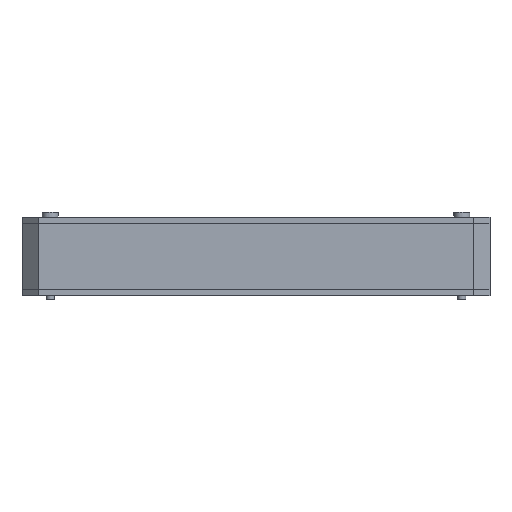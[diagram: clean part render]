
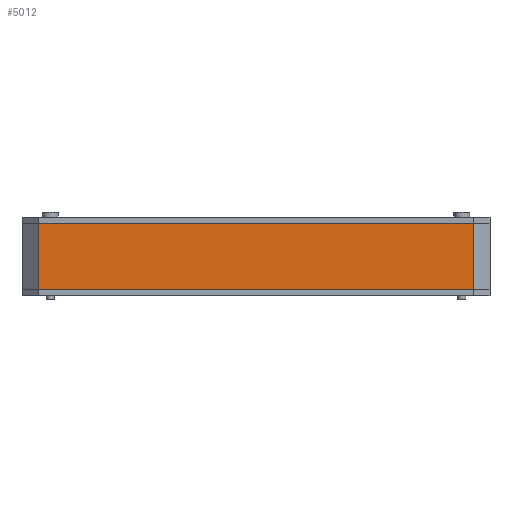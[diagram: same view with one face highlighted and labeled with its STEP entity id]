
A CAD part, front view. The second image highlights one B-rep face of the part: STEP entity #5012.
In plain terms, the highlighted planar face has unit normal (0, -1, 0).
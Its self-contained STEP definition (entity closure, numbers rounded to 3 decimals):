
#5012 = ADVANCED_FACE('',(#5013),#5027,.F.);
#5013 = FACE_BOUND('',#5014,.F.);
#5014 = EDGE_LOOP('',(#5015,#5050,#5078,#5106));
#5015 = ORIENTED_EDGE('',*,*,#5016,.T.);
#5016 = EDGE_CURVE('',#5017,#5019,#5021,.T.);
#5017 = VERTEX_POINT('',#5018);
#5018 = CARTESIAN_POINT('',(-54.,-43.,-10.1));
#5019 = VERTEX_POINT('',#5020);
#5020 = CARTESIAN_POINT('',(-54.,-43.,6.4));
#5021 = SURFACE_CURVE('',#5022,(#5026,#5038),.PCURVE_S1.);
#5022 = LINE('',#5023,#5024);
#5023 = CARTESIAN_POINT('',(-54.,-43.,-10.1));
#5024 = VECTOR('',#5025,1.);
#5025 = DIRECTION('',(0.,0.,1.));
#5026 = PCURVE('',#5027,#5032);
#5027 = PLANE('',#5028);
#5028 = AXIS2_PLACEMENT_3D('',#5029,#5030,#5031);
#5029 = CARTESIAN_POINT('',(-54.,-43.,-10.1));
#5030 = DIRECTION('',(0.,1.,0.));
#5031 = DIRECTION('',(1.,0.,0.));
#5032 = DEFINITIONAL_REPRESENTATION('',(#5033),#5037);
#5033 = LINE('',#5034,#5035);
#5034 = CARTESIAN_POINT('',(0.,0.));
#5035 = VECTOR('',#5036,1.);
#5036 = DIRECTION('',(0.,-1.));
#5037 = ( GEOMETRIC_REPRESENTATION_CONTEXT(2) 
PARAMETRIC_REPRESENTATION_CONTEXT() REPRESENTATION_CONTEXT('2D SPACE',''
  ) );
#5038 = PCURVE('',#5039,#5044);
#5039 = PLANE('',#5040);
#5040 = AXIS2_PLACEMENT_3D('',#5041,#5042,#5043);
#5041 = CARTESIAN_POINT('',(-58.,-39.,-10.1));
#5042 = DIRECTION('',(0.707,0.707,-0.));
#5043 = DIRECTION('',(0.707,-0.707,0.));
#5044 = DEFINITIONAL_REPRESENTATION('',(#5045),#5049);
#5045 = LINE('',#5046,#5047);
#5046 = CARTESIAN_POINT('',(5.657,0.));
#5047 = VECTOR('',#5048,1.);
#5048 = DIRECTION('',(0.,-1.));
#5049 = ( GEOMETRIC_REPRESENTATION_CONTEXT(2) 
PARAMETRIC_REPRESENTATION_CONTEXT() REPRESENTATION_CONTEXT('2D SPACE',''
  ) );
#5050 = ORIENTED_EDGE('',*,*,#5051,.T.);
#5051 = EDGE_CURVE('',#5019,#5052,#5054,.T.);
#5052 = VERTEX_POINT('',#5053);
#5053 = CARTESIAN_POINT('',(54.,-43.,6.4));
#5054 = SURFACE_CURVE('',#5055,(#5059,#5066),.PCURVE_S1.);
#5055 = LINE('',#5056,#5057);
#5056 = CARTESIAN_POINT('',(-54.,-43.,6.4));
#5057 = VECTOR('',#5058,1.);
#5058 = DIRECTION('',(1.,0.,0.));
#5059 = PCURVE('',#5027,#5060);
#5060 = DEFINITIONAL_REPRESENTATION('',(#5061),#5065);
#5061 = LINE('',#5062,#5063);
#5062 = CARTESIAN_POINT('',(0.,-16.5));
#5063 = VECTOR('',#5064,1.);
#5064 = DIRECTION('',(1.,0.));
#5065 = ( GEOMETRIC_REPRESENTATION_CONTEXT(2) 
PARAMETRIC_REPRESENTATION_CONTEXT() REPRESENTATION_CONTEXT('2D SPACE',''
  ) );
#5066 = PCURVE('',#5067,#5072);
#5067 = PLANE('',#5068);
#5068 = AXIS2_PLACEMENT_3D('',#5069,#5070,#5071);
#5069 = CARTESIAN_POINT('',(0.956,-1.253,6.4));
#5070 = DIRECTION('',(0.,0.,1.));
#5071 = DIRECTION('',(1.,0.,0.));
#5072 = DEFINITIONAL_REPRESENTATION('',(#5073),#5077);
#5073 = LINE('',#5074,#5075);
#5074 = CARTESIAN_POINT('',(-54.956,-41.747));
#5075 = VECTOR('',#5076,1.);
#5076 = DIRECTION('',(1.,0.));
#5077 = ( GEOMETRIC_REPRESENTATION_CONTEXT(2) 
PARAMETRIC_REPRESENTATION_CONTEXT() REPRESENTATION_CONTEXT('2D SPACE',''
  ) );
#5078 = ORIENTED_EDGE('',*,*,#5079,.F.);
#5079 = EDGE_CURVE('',#5080,#5052,#5082,.T.);
#5080 = VERTEX_POINT('',#5081);
#5081 = CARTESIAN_POINT('',(54.,-43.,-10.1));
#5082 = SURFACE_CURVE('',#5083,(#5087,#5094),.PCURVE_S1.);
#5083 = LINE('',#5084,#5085);
#5084 = CARTESIAN_POINT('',(54.,-43.,-10.1));
#5085 = VECTOR('',#5086,1.);
#5086 = DIRECTION('',(0.,0.,1.));
#5087 = PCURVE('',#5027,#5088);
#5088 = DEFINITIONAL_REPRESENTATION('',(#5089),#5093);
#5089 = LINE('',#5090,#5091);
#5090 = CARTESIAN_POINT('',(108.,0.));
#5091 = VECTOR('',#5092,1.);
#5092 = DIRECTION('',(0.,-1.));
#5093 = ( GEOMETRIC_REPRESENTATION_CONTEXT(2) 
PARAMETRIC_REPRESENTATION_CONTEXT() REPRESENTATION_CONTEXT('2D SPACE',''
  ) );
#5094 = PCURVE('',#5095,#5100);
#5095 = PLANE('',#5096);
#5096 = AXIS2_PLACEMENT_3D('',#5097,#5098,#5099);
#5097 = CARTESIAN_POINT('',(54.,-43.,-10.1));
#5098 = DIRECTION('',(-0.707,0.707,0.));
#5099 = DIRECTION('',(0.707,0.707,0.));
#5100 = DEFINITIONAL_REPRESENTATION('',(#5101),#5105);
#5101 = LINE('',#5102,#5103);
#5102 = CARTESIAN_POINT('',(0.,0.));
#5103 = VECTOR('',#5104,1.);
#5104 = DIRECTION('',(0.,-1.));
#5105 = ( GEOMETRIC_REPRESENTATION_CONTEXT(2) 
PARAMETRIC_REPRESENTATION_CONTEXT() REPRESENTATION_CONTEXT('2D SPACE',''
  ) );
#5106 = ORIENTED_EDGE('',*,*,#5107,.F.);
#5107 = EDGE_CURVE('',#5017,#5080,#5108,.T.);
#5108 = SURFACE_CURVE('',#5109,(#5113,#5120),.PCURVE_S1.);
#5109 = LINE('',#5110,#5111);
#5110 = CARTESIAN_POINT('',(-54.,-43.,-10.1));
#5111 = VECTOR('',#5112,1.);
#5112 = DIRECTION('',(1.,0.,0.));
#5113 = PCURVE('',#5027,#5114);
#5114 = DEFINITIONAL_REPRESENTATION('',(#5115),#5119);
#5115 = LINE('',#5116,#5117);
#5116 = CARTESIAN_POINT('',(0.,0.));
#5117 = VECTOR('',#5118,1.);
#5118 = DIRECTION('',(1.,0.));
#5119 = ( GEOMETRIC_REPRESENTATION_CONTEXT(2) 
PARAMETRIC_REPRESENTATION_CONTEXT() REPRESENTATION_CONTEXT('2D SPACE',''
  ) );
#5120 = PCURVE('',#5121,#5126);
#5121 = PLANE('',#5122);
#5122 = AXIS2_PLACEMENT_3D('',#5123,#5124,#5125);
#5123 = CARTESIAN_POINT('',(0.956,-1.253,-10.1));
#5124 = DIRECTION('',(0.,0.,1.));
#5125 = DIRECTION('',(1.,0.,0.));
#5126 = DEFINITIONAL_REPRESENTATION('',(#5127),#5131);
#5127 = LINE('',#5128,#5129);
#5128 = CARTESIAN_POINT('',(-54.956,-41.747));
#5129 = VECTOR('',#5130,1.);
#5130 = DIRECTION('',(1.,0.));
#5131 = ( GEOMETRIC_REPRESENTATION_CONTEXT(2) 
PARAMETRIC_REPRESENTATION_CONTEXT() REPRESENTATION_CONTEXT('2D SPACE',''
  ) );
